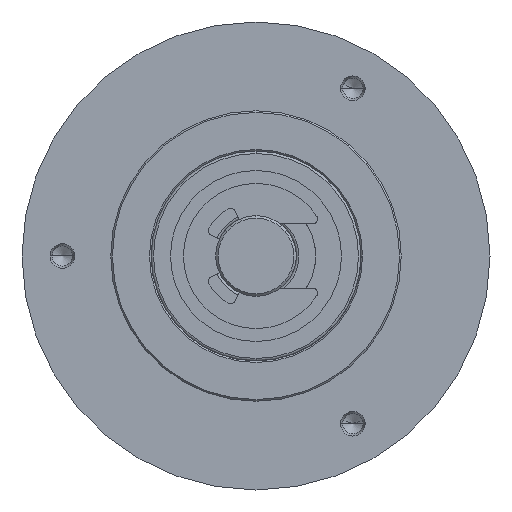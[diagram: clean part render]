
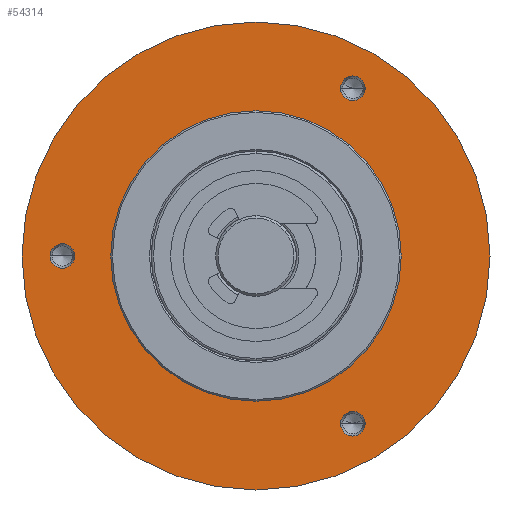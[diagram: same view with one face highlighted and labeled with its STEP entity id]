
A CAD part, left-side view. The second image highlights one B-rep face of the part: STEP entity #54314.
In plain terms, the highlighted planar face has unit normal (-1, 0, 0).
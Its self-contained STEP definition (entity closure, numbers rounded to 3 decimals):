
#5 = ORIENTED_EDGE ( 'NONE', *, *, #52468, .F. ) ;
#917 = VERTEX_POINT ( 'NONE', #2277 ) ;
#1822 = EDGE_CURVE ( 'NONE', #6672, #4648, #52257, .T. ) ;
#2277 = CARTESIAN_POINT ( 'NONE',  ( 35.048, 11.756, 0.625 ) ) ;
#2986 = ORIENTED_EDGE ( 'NONE', *, *, #46576, .F. ) ;
#3252 = FACE_BOUND ( 'NONE', #79400, .T. ) ;
#3932 = ORIENTED_EDGE ( 'NONE', *, *, #53082, .F. ) ;
#4648 = VERTEX_POINT ( 'NONE', #66021 ) ;
#6672 = VERTEX_POINT ( 'NONE', #38629 ) ;
#8258 = DIRECTION ( 'NONE',  ( -1., 0., 0. ) ) ;
#8351 = DIRECTION ( 'NONE',  ( -1., 0., 0. ) ) ;
#8621 = EDGE_LOOP ( 'NONE', ( #9292, #45792 ) ) ;
#9292 = ORIENTED_EDGE ( 'NONE', *, *, #54893, .T. ) ;
#9850 = AXIS2_PLACEMENT_3D ( 'NONE', #17680, #64261, #24373 ) ;
#11853 = CARTESIAN_POINT ( 'NONE',  ( 35.048, 10.231, 42.194 ) ) ;
#11865 = CIRCLE ( 'NONE', #84911, 29. ) ;
#11981 = DIRECTION ( 'NONE',  ( -1., 0., 0. ) ) ;
#13040 = CARTESIAN_POINT ( 'NONE',  ( 35.048, 8.706, 42.194 ) ) ;
#13386 = ORIENTED_EDGE ( 'NONE', *, *, #45194, .F. ) ;
#15675 = CARTESIAN_POINT ( 'NONE',  ( 35.048, 11.756, 42.194 ) ) ;
#16339 = CARTESIAN_POINT ( 'NONE',  ( 35.048, 8.706, 0.625 ) ) ;
#17264 = CIRCLE ( 'NONE', #30335, 1.525 ) ;
#17680 = CARTESIAN_POINT ( 'NONE',  ( 35.048, 22.231, 21.409 ) ) ;
#18244 = AXIS2_PLACEMENT_3D ( 'NONE', #51863, #11981, #58593 ) ;
#18416 = PLANE ( 'NONE',  #18244 ) ;
#18581 = DIRECTION ( 'NONE',  ( 0., 1., 0. ) ) ;
#20738 = CARTESIAN_POINT ( 'NONE',  ( 35.048, 22.231, 21.409 ) ) ;
#21006 = FACE_BOUND ( 'NONE', #45549, .T. ) ;
#23380 = CARTESIAN_POINT ( 'NONE',  ( 35.048, 44.706, 21.409 ) ) ;
#24373 = DIRECTION ( 'NONE',  ( 0., 1., 0. ) ) ;
#25864 = CARTESIAN_POINT ( 'NONE',  ( 35.048, 22.231, 21.409 ) ) ;
#27129 = CARTESIAN_POINT ( 'NONE',  ( 35.048, 46.231, 21.409 ) ) ;
#27276 = AXIS2_PLACEMENT_3D ( 'NONE', #75219, #35334, #81840 ) ;
#27434 = DIRECTION ( 'NONE',  ( 0., 1., 0. ) ) ;
#27692 = VERTEX_POINT ( 'NONE', #13040 ) ;
#29188 = CARTESIAN_POINT ( 'NONE',  ( 35.048, 51.231, 21.409 ) ) ;
#29769 = AXIS2_PLACEMENT_3D ( 'NONE', #11853, #58459, #18581 ) ;
#30335 = AXIS2_PLACEMENT_3D ( 'NONE', #48112, #8258, #54821 ) ;
#32547 = DIRECTION ( 'NONE',  ( 0., 1., 0. ) ) ;
#33827 = DIRECTION ( 'NONE',  ( 0., 1., 0. ) ) ;
#34453 = DIRECTION ( 'NONE',  ( -1., 0., 0. ) ) ;
#35272 = CARTESIAN_POINT ( 'NONE',  ( 35.048, 10.231, 0.625 ) ) ;
#35334 = DIRECTION ( 'NONE',  ( -1., 0., 0. ) ) ;
#36600 = FACE_BOUND ( 'NONE', #46549, .T. ) ;
#37161 = CARTESIAN_POINT ( 'NONE',  ( 35.048, 47.756, 21.409 ) ) ;
#37201 = EDGE_LOOP ( 'NONE', ( #69792, #5 ) ) ;
#38629 = CARTESIAN_POINT ( 'NONE',  ( 35.048, 40.231, 21.409 ) ) ;
#38690 = FACE_OUTER_BOUND ( 'NONE', #8621, .T. ) ;
#40461 = ORIENTED_EDGE ( 'NONE', *, *, #52718, .F. ) ;
#40524 = VERTEX_POINT ( 'NONE', #74734 ) ;
#41948 = DIRECTION ( 'NONE',  ( 0., 1., 0. ) ) ;
#42279 = EDGE_CURVE ( 'NONE', #74790, #61277, #72059, .T. ) ;
#44299 = CIRCLE ( 'NONE', #29769, 1.525 ) ;
#45194 = EDGE_CURVE ( 'NONE', #67644, #917, #83286, .T. ) ;
#45549 = EDGE_LOOP ( 'NONE', ( #3932, #78921 ) ) ;
#45792 = ORIENTED_EDGE ( 'NONE', *, *, #53094, .T. ) ;
#46549 = EDGE_LOOP ( 'NONE', ( #40461, #13386 ) ) ;
#46576 = EDGE_CURVE ( 'NONE', #27692, #49557, #44299, .T. ) ;
#48112 = CARTESIAN_POINT ( 'NONE',  ( 35.048, 10.231, 0.625 ) ) ;
#48210 = CARTESIAN_POINT ( 'NONE',  ( 35.048, 46.231, 21.409 ) ) ;
#49557 = VERTEX_POINT ( 'NONE', #15675 ) ;
#51863 = CARTESIAN_POINT ( 'NONE',  ( 35.048, 22.231, 21.409 ) ) ;
#52257 = CIRCLE ( 'NONE', #27276, 18. ) ;
#52468 = EDGE_CURVE ( 'NONE', #4648, #6672, #61078, .T. ) ;
#52709 = EDGE_CURVE ( 'NONE', #49557, #27692, #76604, .T. ) ;
#52718 = EDGE_CURVE ( 'NONE', #917, #67644, #17264, .T. ) ;
#53082 = EDGE_CURVE ( 'NONE', #61277, #74790, #65032, .T. ) ;
#53094 = EDGE_CURVE ( 'NONE', #40524, #54030, #11865, .T. ) ;
#54030 = VERTEX_POINT ( 'NONE', #29188 ) ;
#54314 = ADVANCED_FACE ( 'NONE', ( #21006, #36600, #3252, #38690, #72037 ), #18416, .T. ) ;
#54821 = DIRECTION ( 'NONE',  ( 0., 1., 0. ) ) ;
#54893 = EDGE_CURVE ( 'NONE', #54030, #40524, #85894, .T. ) ;
#54926 = DIRECTION ( 'NONE',  ( 0., 1., 0. ) ) ;
#58459 = DIRECTION ( 'NONE',  ( -1., 0., 0. ) ) ;
#58593 = DIRECTION ( 'NONE',  ( 0., 1., 0. ) ) ;
#61078 = CIRCLE ( 'NONE', #9850, 18. ) ;
#61277 = VERTEX_POINT ( 'NONE', #37161 ) ;
#61758 = AXIS2_PLACEMENT_3D ( 'NONE', #74333, #34453, #80979 ) ;
#64261 = DIRECTION ( 'NONE',  ( -1., 0., 0. ) ) ;
#65032 = CIRCLE ( 'NONE', #71644, 1.525 ) ;
#66021 = CARTESIAN_POINT ( 'NONE',  ( 35.048, 4.231, 21.409 ) ) ;
#67345 = DIRECTION ( 'NONE',  ( -1., 0., 0. ) ) ;
#67644 = VERTEX_POINT ( 'NONE', #16339 ) ;
#69792 = ORIENTED_EDGE ( 'NONE', *, *, #1822, .F. ) ;
#71644 = AXIS2_PLACEMENT_3D ( 'NONE', #27129, #73697, #33827 ) ;
#71951 = AXIS2_PLACEMENT_3D ( 'NONE', #35272, #81770, #41948 ) ;
#72037 = FACE_BOUND ( 'NONE', #37201, .T. ) ;
#72059 = CIRCLE ( 'NONE', #73578, 1.525 ) ;
#72431 = DIRECTION ( 'NONE',  ( -1., 0., 0. ) ) ;
#72791 = ORIENTED_EDGE ( 'NONE', *, *, #52709, .F. ) ;
#73578 = AXIS2_PLACEMENT_3D ( 'NONE', #48210, #8351, #54926 ) ;
#73697 = DIRECTION ( 'NONE',  ( -1., 0., 0. ) ) ;
#74333 = CARTESIAN_POINT ( 'NONE',  ( 35.048, 10.231, 42.194 ) ) ;
#74734 = CARTESIAN_POINT ( 'NONE',  ( 35.048, -6.769, 21.409 ) ) ;
#74790 = VERTEX_POINT ( 'NONE', #23380 ) ;
#75219 = CARTESIAN_POINT ( 'NONE',  ( 35.048, 22.231, 21.409 ) ) ;
#76604 = CIRCLE ( 'NONE', #61758, 1.525 ) ;
#78921 = ORIENTED_EDGE ( 'NONE', *, *, #42279, .F. ) ;
#79400 = EDGE_LOOP ( 'NONE', ( #72791, #2986 ) ) ;
#80979 = DIRECTION ( 'NONE',  ( 0., 1., 0. ) ) ;
#81770 = DIRECTION ( 'NONE',  ( -1., 0., 0. ) ) ;
#81840 = DIRECTION ( 'NONE',  ( 0., 1., 0. ) ) ;
#83286 = CIRCLE ( 'NONE', #71951, 1.525 ) ;
#84535 = AXIS2_PLACEMENT_3D ( 'NONE', #25864, #72431, #32547 ) ;
#84911 = AXIS2_PLACEMENT_3D ( 'NONE', #20738, #67345, #27434 ) ;
#85894 = CIRCLE ( 'NONE', #84535, 29. ) ;
